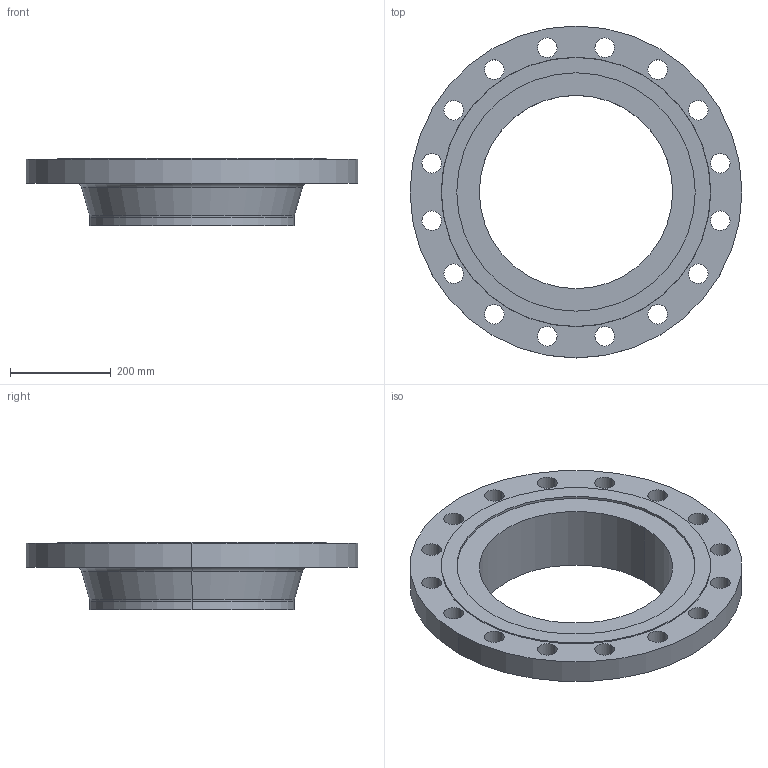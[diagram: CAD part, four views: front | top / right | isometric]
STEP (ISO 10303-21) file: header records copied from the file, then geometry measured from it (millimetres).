
FILE_DESCRIPTION (( 'STEP AP214' ), '1' );
FILE_NAME ('PN40 DN400 Type 11 - Type F Face.STEP', '2019-01-05T23:19:04', ( '' ), ( '' ), 'SwSTEP 2.0', 'SolidWorks 2019', '' );
FILE_SCHEMA (( 'AUTOMOTIVE_DESIGN' ));
Length unit declared in the file: millimetre
Products named in the file (1): PN40 DN400 Type 11 - Type F Face
Bounding box: 660 x 660 x 135 mm (x, y, z)
Volume: 11853107 mm3; surface area: 862040.2 mm2
Topology: 1 solids, 1 shells, 53 faces, 138 edges, 90 vertices
Faces by surface type: cylinder 40, plane 5, torus 4, cone 4
Entity records: 1780 total; most frequent: DIRECTION 340, CARTESIAN_POINT 282, ORIENTED_EDGE 276, AXIS2_PLACEMENT_3D 148, EDGE_CURVE 138, CIRCLE 94, VERTEX_POINT 90, EDGE_LOOP 90
